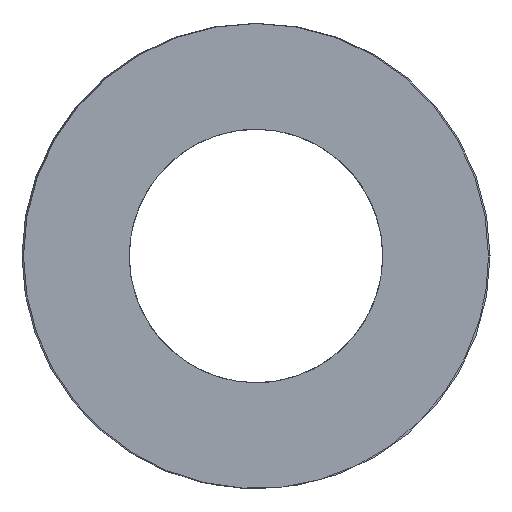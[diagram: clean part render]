
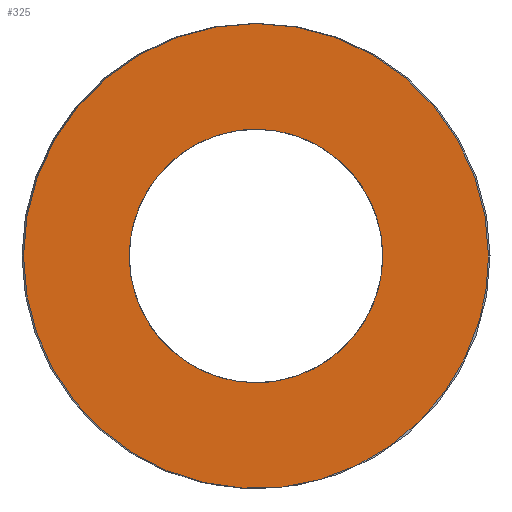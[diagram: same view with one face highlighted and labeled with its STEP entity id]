
A CAD part, left-side view. The second image highlights one B-rep face of the part: STEP entity #325.
In plain terms, the highlighted planar face has unit normal (-1, 0, 0).
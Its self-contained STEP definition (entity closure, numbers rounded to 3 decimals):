
#63=CARTESIAN_POINT('Vertex',(0.,24.4,0.)) ;
#89=CARTESIAN_POINT('Vertex',(0.,-24.4,0.)) ;
#93=CARTESIAN_POINT('Control Point',(0.,24.4,0.)) ;
#94=CARTESIAN_POINT('Control Point',(0.,24.4,-3.833)) ;
#95=CARTESIAN_POINT('Control Point',(0.,23.647,-7.665)) ;
#96=CARTESIAN_POINT('Control Point',(0.,22.142,-11.301)) ;
#97=CARTESIAN_POINT('Control Point',(0.,17.786,-17.786)) ;
#98=CARTESIAN_POINT('Control Point',(0.,11.301,-22.142)) ;
#99=CARTESIAN_POINT('Control Point',(0.,7.665,-23.647)) ;
#100=CARTESIAN_POINT('Control Point',(0.,0.,-25.153)) ;
#101=CARTESIAN_POINT('Control Point',(0.,-7.665,-23.647)) ;
#102=CARTESIAN_POINT('Control Point',(0.,-11.301,-22.142)) ;
#103=CARTESIAN_POINT('Control Point',(0.,-17.786,-17.786)) ;
#104=CARTESIAN_POINT('Control Point',(0.,-22.142,-11.301)) ;
#105=CARTESIAN_POINT('Control Point',(0.,-23.647,-7.665)) ;
#106=CARTESIAN_POINT('Control Point',(0.,-24.4,-3.833)) ;
#107=CARTESIAN_POINT('Control Point',(0.,-24.4,0.)) ;
#121=CARTESIAN_POINT('Axis2P3D Location',(0.,0.,0.)) ;
#256=CARTESIAN_POINT('Axis2P3D Location',(0.,12.2,0.)) ;
#266=CARTESIAN_POINT('Control Point',(0.,0.,-13.3)) ;
#267=CARTESIAN_POINT('Control Point',(0.,1.251,-13.3)) ;
#268=CARTESIAN_POINT('Control Point',(0.,2.501,-13.153)) ;
#269=CARTESIAN_POINT('Control Point',(0.,3.729,-12.859)) ;
#270=CARTESIAN_POINT('Control Point',(0.,6.092,-11.988)) ;
#271=CARTESIAN_POINT('Control Point',(0.,8.189,-10.593)) ;
#272=CARTESIAN_POINT('Control Point',(0.,9.15,-9.774)) ;
#273=CARTESIAN_POINT('Control Point',(0.,10.862,-7.927)) ;
#274=CARTESIAN_POINT('Control Point',(0.,12.099,-5.734)) ;
#275=CARTESIAN_POINT('Control Point',(0.,12.585,-4.569)) ;
#276=CARTESIAN_POINT('Control Point',(0.,13.275,-2.146)) ;
#277=CARTESIAN_POINT('Control Point',(0.,13.384,0.37)) ;
#278=CARTESIAN_POINT('Control Point',(0.,13.289,1.628)) ;
#279=CARTESIAN_POINT('Control Point',(0.,12.807,4.1)) ;
#280=CARTESIAN_POINT('Control Point',(0.,11.764,6.393)) ;
#281=CARTESIAN_POINT('Control Point',(0.,11.11,7.472)) ;
#282=CARTESIAN_POINT('Control Point',(0.,9.56,9.457)) ;
#283=CARTESIAN_POINT('Control Point',(0.,7.591,11.029)) ;
#284=CARTESIAN_POINT('Control Point',(0.,6.519,11.694)) ;
#285=CARTESIAN_POINT('Control Point',(0.,4.601,12.592)) ;
#286=CARTESIAN_POINT('Control Point',(0.,2.551,13.095)) ;
#287=CARTESIAN_POINT('Control Point',(0.,1.706,13.232)) ;
#288=CARTESIAN_POINT('Control Point',(0.,0.853,13.3)) ;
#289=CARTESIAN_POINT('Control Point',(0.,0.,13.3)) ;
#290=CARTESIAN_POINT('Vertex',(0.,0.,-13.3)) ;
#292=CARTESIAN_POINT('Vertex',(0.,0.,13.3)) ;
#296=CARTESIAN_POINT('Control Point',(0.,0.,13.3)) ;
#297=CARTESIAN_POINT('Control Point',(0.,-1.251,13.3)) ;
#298=CARTESIAN_POINT('Control Point',(0.,-2.501,13.153)) ;
#299=CARTESIAN_POINT('Control Point',(0.,-3.729,12.859)) ;
#300=CARTESIAN_POINT('Control Point',(0.,-6.092,11.988)) ;
#301=CARTESIAN_POINT('Control Point',(0.,-8.189,10.593)) ;
#302=CARTESIAN_POINT('Control Point',(0.,-9.15,9.774)) ;
#303=CARTESIAN_POINT('Control Point',(0.,-10.862,7.927)) ;
#304=CARTESIAN_POINT('Control Point',(0.,-12.099,5.734)) ;
#305=CARTESIAN_POINT('Control Point',(0.,-12.585,4.569)) ;
#306=CARTESIAN_POINT('Control Point',(0.,-13.275,2.146)) ;
#307=CARTESIAN_POINT('Control Point',(0.,-13.384,-0.37)) ;
#308=CARTESIAN_POINT('Control Point',(0.,-13.289,-1.628)) ;
#309=CARTESIAN_POINT('Control Point',(0.,-12.807,-4.1)) ;
#310=CARTESIAN_POINT('Control Point',(0.,-11.764,-6.393)) ;
#311=CARTESIAN_POINT('Control Point',(0.,-11.11,-7.472)) ;
#312=CARTESIAN_POINT('Control Point',(0.,-9.56,-9.457)) ;
#313=CARTESIAN_POINT('Control Point',(0.,-7.591,-11.029)) ;
#314=CARTESIAN_POINT('Control Point',(0.,-6.519,-11.694)) ;
#315=CARTESIAN_POINT('Control Point',(0.,-4.601,-12.592)) ;
#316=CARTESIAN_POINT('Control Point',(0.,-2.551,-13.095)) ;
#317=CARTESIAN_POINT('Control Point',(0.,-1.706,-13.232)) ;
#318=CARTESIAN_POINT('Control Point',(0.,-0.853,-13.3)) ;
#319=CARTESIAN_POINT('Control Point',(0.,0.,-13.3)) ;
#122=DIRECTION('Axis2P3D Direction',(1.,-0.,0.)) ;
#257=DIRECTION('Axis2P3D Direction',(-1.,0.,0.)) ;
#258=DIRECTION('Axis2P3D XDirection',(0.,1.,0.)) ;
#123=AXIS2_PLACEMENT_3D('Circle Axis2P3D',#121,#122,$) ;
#259=AXIS2_PLACEMENT_3D('Plane Axis2P3D',#256,#257,#258) ;
#262=ORIENTED_EDGE('',*,*,#108,.T.) ;
#263=ORIENTED_EDGE('',*,*,#125,.T.) ;
#322=ORIENTED_EDGE('',*,*,#294,.T.) ;
#323=ORIENTED_EDGE('',*,*,#320,.T.) ;
#324=FACE_BOUND('',#321,.T.) ;
#325=ADVANCED_FACE('392-B50-254',(#264,#324),#260,.T.) ;
#92=B_SPLINE_CURVE_WITH_KNOTS('',5,(#93,#94,#95,#96,#97,#98,#99,#100,#101,#102,#103,#104,#105,#106,#107),.UNSPECIFIED.,.F.,.U.,(6,3,3,3,6),(-38.327,-19.164,0.,19.164,38.327),.UNSPECIFIED.) ;
#265=B_SPLINE_CURVE_WITH_KNOTS('',5,(#266,#267,#268,#269,#270,#271,#272,#273,#274,#275,#276,#277,#278,#279,#280,#281,#282,#283,#284,#285,#286,#287,#288,#289),.UNSPECIFIED.,.F.,.U.,(6,3,3,3,3,3,3,6),(0.,8.843,17.686,26.53,35.373,44.216,53.059,59.09),.UNSPECIFIED.) ;
#295=B_SPLINE_CURVE_WITH_KNOTS('',5,(#296,#297,#298,#299,#300,#301,#302,#303,#304,#305,#306,#307,#308,#309,#310,#311,#312,#313,#314,#315,#316,#317,#318,#319),.UNSPECIFIED.,.F.,.U.,(6,3,3,3,3,3,3,6),(0.,8.843,17.686,26.53,35.373,44.216,53.059,59.09),.UNSPECIFIED.) ;
#124=CIRCLE('generated circle',#123,24.4) ;
#108=EDGE_CURVE('',#64,#90,#92,.T.) ;
#125=EDGE_CURVE('',#90,#64,#124,.F.) ;
#294=EDGE_CURVE('',#291,#293,#265,.T.) ;
#320=EDGE_CURVE('',#293,#291,#295,.T.) ;
#261=EDGE_LOOP('',(#262,#263)) ;
#321=EDGE_LOOP('',(#322,#323)) ;
#264=FACE_OUTER_BOUND('',#261,.T.) ;
#260=PLANE('Plane',#259) ;
#64=VERTEX_POINT('',#63) ;
#90=VERTEX_POINT('',#89) ;
#291=VERTEX_POINT('',#290) ;
#293=VERTEX_POINT('',#292) ;
